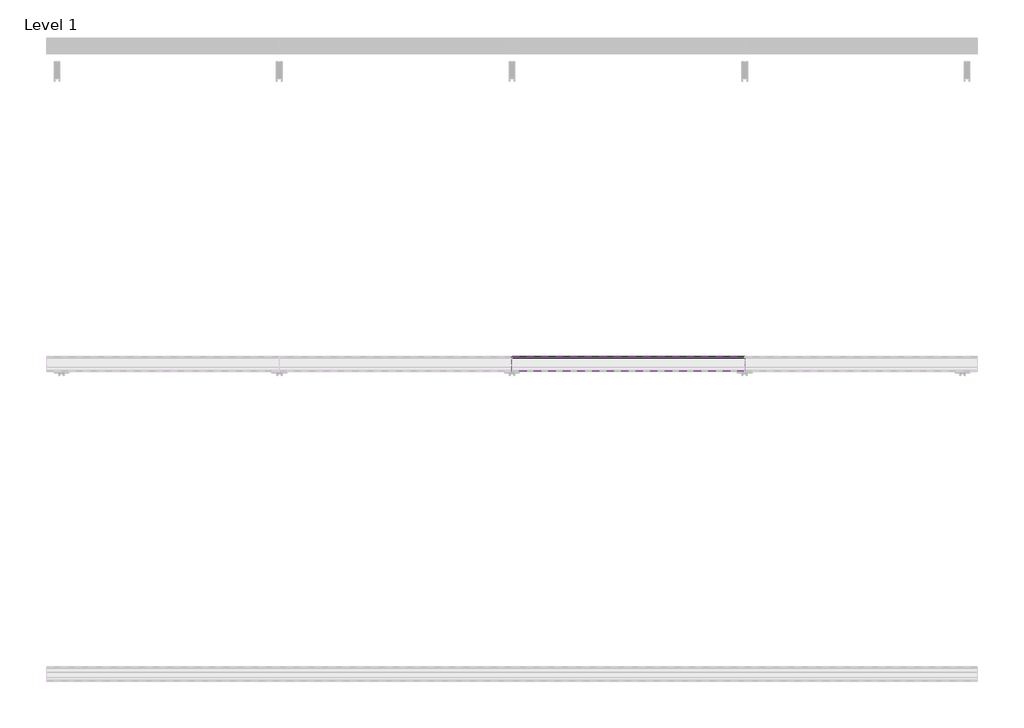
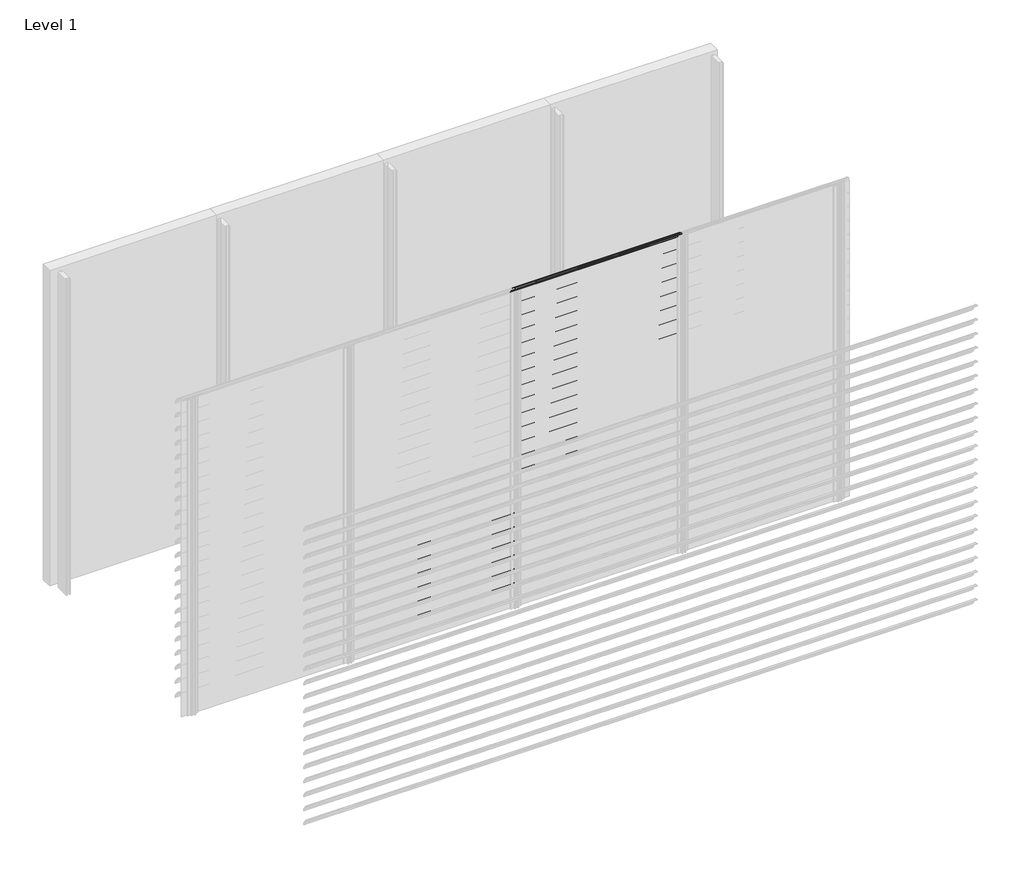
# One storey, part 6 of 57: 20 proxies.
"""IFC4 building model written with IfcOpenShell, lengths in millimetres."""

from ifc_helpers import new_model, si_unit, point, frame, frame_2d, origin, place, context, project, spatial, polyline, circle_curve, trimmed, segment, composite_curve, outline, extrude, element, save

model = new_model("IFC4")

# Units and contexts
model_context = context("Model", 3, world=origin())
ifc_project = project(units=[si_unit("LENGTHUNIT", "METRE", prefix="MILLI")], contexts=[model_context])

# Site, building, storey
site = spatial("IfcSite", under=ifc_project)
building = spatial("IfcBuilding", under=site)
storey = spatial("IfcBuildingStorey", under=building, Name="Level 1", Elevation=0.0)

# Proxies
placement = place(None, origin())
element("IfcBuildingElementProxy", 1, Name="Wall Sweeps", at=placement, inside=storey, context=model_context, shape_type="SweptSolid", body=[
    extrude(outline(composite_curve([segment(trimmed(circle_curve(frame_2d((-53993.7822526, 888.4913792)), 4.2177474), [point((-53989.6985606, 889.5462976))], [point((-53993.7822526, 892.7091266))], False, "CARTESIAN"), True, "CONTINUOUS"), segment(trimmed(circle_curve(frame_2d((-54018.7150834, 790.2536312)), 105.4456002), [point((-53993.7822526, 892.7091266))], [point((-53971.7914298, 884.6832099))], False, "CARTESIAN"), True, "CONTINUOUS"), segment(trimmed(circle_curve(frame_2d((-54061.7199745, 736.0352476)), 173.7335887), [point((-53971.7914298, 884.6832099))], [point((-53913.0720121, 825.9637922))], False, "CARTESIAN"), True, "CONTINUOUS"), segment(trimmed(circle_curve(frame_2d((-54004.9297178, 774.1860314)), 105.4456002), [point((-53913.0720121, 825.9637922))], [point((-53903.6249616, 803.4455765))], False, "CARTESIAN"), True, "CONTINUOUS"), segment(trimmed(circle_curve(frame_2d((-53907.809737, 802.3307305)), 4.3307305), [point((-53903.6249616, 803.4455765))], [point((-53909.0769196, 798.189538))], False, "CARTESIAN"), True, "CONTINUOUS"), segment(polyline([(-53909.0769196, 798.189538), (-53934.7401984, 822.9722783)]), True, "CONTINUOUS"), segment(trimmed(circle_curve(frame_2d((-53931.3879574, 825.2977626)), 4.079877), [point((-53934.7401984, 822.9722783))], [point((-53930.7310597, 829.3244091))], False, "CARTESIAN"), True, "CONTINUOUS"), segment(trimmed(circle_curve(frame_2d((-54014.6665585, 807.2544323)), 86.7885467), [point((-53930.7310597, 829.3244091))], [point((-53942.3028351, 855.1683485))], True, "CARTESIAN"), True, "CONTINUOUS"), segment(polyline([(-53942.3028351, 855.1683485), (-53940.7230099, 857.9046861)]), True, "CONTINUOUS"), segment(trimmed(circle_curve(frame_2d((-54061.7199745, 736.0352476)), 171.7335887), [point((-53940.7230099, 857.9046861))], [point((-53972.7555872, 882.9289618))], True, "CARTESIAN"), True, "CONTINUOUS"), segment(trimmed(circle_curve(frame_2d((-54018.7150834, 790.2536312)), 103.4456002), [point((-53972.7555872, 882.9289618))], [point((-53989.6985606, 889.5462976))], True, "CARTESIAN"), True, "CONTINUOUS")], self_intersect=False)), frame((1500.0, 0.0, 0.0), z_axis=(1.0, 0.0, 0.0), x_axis=(0.0, 1.0, 0.0)), (0.0, 0.0, 1.0), 1500.0),
])
element("IfcBuildingElementProxy", 2, Name="Wall Sweeps", at=placement, inside=storey, context=model_context, shape_type="SweptSolid", body=[
    extrude(outline(composite_curve([segment(trimmed(circle_curve(frame_2d((-53993.7822526, 755.4913792)), 4.2177474), [point((-53989.6985606, 756.5462976))], [point((-53993.7822526, 759.7091266))], False, "CARTESIAN"), True, "CONTINUOUS"), segment(trimmed(circle_curve(frame_2d((-54018.7150834, 657.2536312)), 105.4456002), [point((-53993.7822526, 759.7091266))], [point((-53971.7914298, 751.6832099))], False, "CARTESIAN"), True, "CONTINUOUS"), segment(trimmed(circle_curve(frame_2d((-54061.7199745, 603.0352476)), 173.7335887), [point((-53971.7914298, 751.6832099))], [point((-53913.0720121, 692.9637922))], False, "CARTESIAN"), True, "CONTINUOUS"), segment(trimmed(circle_curve(frame_2d((-54004.9297178, 641.1860314)), 105.4456002), [point((-53913.0720121, 692.9637922))], [point((-53903.6249616, 670.4455765))], False, "CARTESIAN"), True, "CONTINUOUS"), segment(trimmed(circle_curve(frame_2d((-53907.809737, 669.3307305)), 4.3307305), [point((-53903.6249616, 670.4455765))], [point((-53909.0769196, 665.189538))], False, "CARTESIAN"), True, "CONTINUOUS"), segment(polyline([(-53909.0769196, 665.189538), (-53934.7401984, 689.9722783)]), True, "CONTINUOUS"), segment(trimmed(circle_curve(frame_2d((-53931.3879574, 692.2977626)), 4.079877), [point((-53934.7401984, 689.9722783))], [point((-53930.7310597, 696.3244091))], False, "CARTESIAN"), True, "CONTINUOUS"), segment(trimmed(circle_curve(frame_2d((-54014.6665585, 674.2544323)), 86.7885467), [point((-53930.7310597, 696.3244091))], [point((-53942.3028351, 722.1683485))], True, "CARTESIAN"), True, "CONTINUOUS"), segment(polyline([(-53942.3028351, 722.1683485), (-53940.7230099, 724.9046861)]), True, "CONTINUOUS"), segment(trimmed(circle_curve(frame_2d((-54061.7199745, 603.0352476)), 171.7335887), [point((-53940.7230099, 724.9046861))], [point((-53972.7555872, 749.9289618))], True, "CARTESIAN"), True, "CONTINUOUS"), segment(trimmed(circle_curve(frame_2d((-54018.7150834, 657.2536312)), 103.4456002), [point((-53972.7555872, 749.9289618))], [point((-53989.6985606, 756.5462976))], True, "CARTESIAN"), True, "CONTINUOUS")], self_intersect=False)), frame((1500.0, 0.0, 0.0), z_axis=(1.0, 0.0, 0.0), x_axis=(0.0, 1.0, 0.0)), (0.0, 0.0, 1.0), 1500.0),
])
element("IfcBuildingElementProxy", 3, Name="Wall Sweeps", at=placement, inside=storey, context=model_context, shape_type="SweptSolid", body=[
    extrude(outline(composite_curve([segment(trimmed(circle_curve(frame_2d((-53993.7822526, 622.4913792)), 4.2177474), [point((-53989.6985606, 623.5462976))], [point((-53993.7822526, 626.7091266))], False, "CARTESIAN"), True, "CONTINUOUS"), segment(trimmed(circle_curve(frame_2d((-54018.7150834, 524.2536312)), 105.4456002), [point((-53993.7822526, 626.7091266))], [point((-53971.7914298, 618.6832099))], False, "CARTESIAN"), True, "CONTINUOUS"), segment(trimmed(circle_curve(frame_2d((-54061.7199745, 470.0352476)), 173.7335887), [point((-53971.7914298, 618.6832099))], [point((-53913.0720121, 559.9637922))], False, "CARTESIAN"), True, "CONTINUOUS"), segment(trimmed(circle_curve(frame_2d((-54004.9297178, 508.1860314)), 105.4456002), [point((-53913.0720121, 559.9637922))], [point((-53903.6249616, 537.4455765))], False, "CARTESIAN"), True, "CONTINUOUS"), segment(trimmed(circle_curve(frame_2d((-53907.809737, 536.3307305)), 4.3307305), [point((-53903.6249616, 537.4455765))], [point((-53909.0769196, 532.189538))], False, "CARTESIAN"), True, "CONTINUOUS"), segment(polyline([(-53909.0769196, 532.189538), (-53934.7401984, 556.9722783)]), True, "CONTINUOUS"), segment(trimmed(circle_curve(frame_2d((-53931.3879574, 559.2977626)), 4.079877), [point((-53934.7401984, 556.9722783))], [point((-53930.7310597, 563.3244091))], False, "CARTESIAN"), True, "CONTINUOUS"), segment(trimmed(circle_curve(frame_2d((-54014.6665585, 541.2544323)), 86.7885467), [point((-53930.7310597, 563.3244091))], [point((-53942.3028351, 589.1683485))], True, "CARTESIAN"), True, "CONTINUOUS"), segment(polyline([(-53942.3028351, 589.1683485), (-53940.7230099, 591.9046861)]), True, "CONTINUOUS"), segment(trimmed(circle_curve(frame_2d((-54061.7199745, 470.0352476)), 171.7335887), [point((-53940.7230099, 591.9046861))], [point((-53972.7555872, 616.9289618))], True, "CARTESIAN"), True, "CONTINUOUS"), segment(trimmed(circle_curve(frame_2d((-54018.7150834, 524.2536312)), 103.4456002), [point((-53972.7555872, 616.9289618))], [point((-53989.6985606, 623.5462976))], True, "CARTESIAN"), True, "CONTINUOUS")], self_intersect=False)), frame((1500.0, 0.0, 0.0), z_axis=(1.0, 0.0, 0.0), x_axis=(0.0, 1.0, 0.0)), (0.0, 0.0, 1.0), 1500.0),
])
element("IfcBuildingElementProxy", 4, Name="Wall Sweeps", at=placement, inside=storey, context=model_context, shape_type="SweptSolid", body=[
    extrude(outline(composite_curve([segment(trimmed(circle_curve(frame_2d((-53993.7822526, 489.4913792)), 4.2177474), [point((-53989.6985606, 490.5462976))], [point((-53993.7822526, 493.7091266))], False, "CARTESIAN"), True, "CONTINUOUS"), segment(trimmed(circle_curve(frame_2d((-54018.7150834, 391.2536312)), 105.4456002), [point((-53993.7822526, 493.7091266))], [point((-53971.7914298, 485.6832099))], False, "CARTESIAN"), True, "CONTINUOUS"), segment(trimmed(circle_curve(frame_2d((-54061.7199745, 337.0352476)), 173.7335887), [point((-53971.7914298, 485.6832099))], [point((-53913.0720121, 426.9637922))], False, "CARTESIAN"), True, "CONTINUOUS"), segment(trimmed(circle_curve(frame_2d((-54004.9297178, 375.1860314)), 105.4456002), [point((-53913.0720121, 426.9637922))], [point((-53903.6249616, 404.4455765))], False, "CARTESIAN"), True, "CONTINUOUS"), segment(trimmed(circle_curve(frame_2d((-53907.809737, 403.3307305)), 4.3307305), [point((-53903.6249616, 404.4455765))], [point((-53909.0769196, 399.189538))], False, "CARTESIAN"), True, "CONTINUOUS"), segment(polyline([(-53909.0769196, 399.189538), (-53934.7401984, 423.9722783)]), True, "CONTINUOUS"), segment(trimmed(circle_curve(frame_2d((-53931.3879574, 426.2977626)), 4.079877), [point((-53934.7401984, 423.9722783))], [point((-53930.7310597, 430.3244091))], False, "CARTESIAN"), True, "CONTINUOUS"), segment(trimmed(circle_curve(frame_2d((-54014.6665585, 408.2544323)), 86.7885467), [point((-53930.7310597, 430.3244091))], [point((-53942.3028351, 456.1683485))], True, "CARTESIAN"), True, "CONTINUOUS"), segment(polyline([(-53942.3028351, 456.1683485), (-53940.7230099, 458.9046861)]), True, "CONTINUOUS"), segment(trimmed(circle_curve(frame_2d((-54061.7199745, 337.0352476)), 171.7335887), [point((-53940.7230099, 458.9046861))], [point((-53972.7555872, 483.9289618))], True, "CARTESIAN"), True, "CONTINUOUS"), segment(trimmed(circle_curve(frame_2d((-54018.7150834, 391.2536312)), 103.4456002), [point((-53972.7555872, 483.9289618))], [point((-53989.6985606, 490.5462976))], True, "CARTESIAN"), True, "CONTINUOUS")], self_intersect=False)), frame((1500.0, 0.0, 0.0), z_axis=(1.0, 0.0, 0.0), x_axis=(0.0, 1.0, 0.0)), (0.0, 0.0, 1.0), 1500.0),
])
element("IfcBuildingElementProxy", 5, Name="Wall Sweeps", at=placement, inside=storey, context=model_context, shape_type="SweptSolid", body=[
    extrude(outline(composite_curve([segment(trimmed(circle_curve(frame_2d((-53993.7822526, 356.4913792)), 4.2177474), [point((-53989.6985606, 357.5462976))], [point((-53993.7822526, 360.7091266))], False, "CARTESIAN"), True, "CONTINUOUS"), segment(trimmed(circle_curve(frame_2d((-54018.7150834, 258.2536312)), 105.4456002), [point((-53993.7822526, 360.7091266))], [point((-53971.7914298, 352.6832099))], False, "CARTESIAN"), True, "CONTINUOUS"), segment(trimmed(circle_curve(frame_2d((-54061.7199745, 204.0352476)), 173.7335887), [point((-53971.7914298, 352.6832099))], [point((-53913.0720121, 293.9637922))], False, "CARTESIAN"), True, "CONTINUOUS"), segment(trimmed(circle_curve(frame_2d((-54004.9297178, 242.1860314)), 105.4456002), [point((-53913.0720121, 293.9637922))], [point((-53903.6249616, 271.4455765))], False, "CARTESIAN"), True, "CONTINUOUS"), segment(trimmed(circle_curve(frame_2d((-53907.809737, 270.3307305)), 4.3307305), [point((-53903.6249616, 271.4455765))], [point((-53909.0769196, 266.189538))], False, "CARTESIAN"), True, "CONTINUOUS"), segment(polyline([(-53909.0769196, 266.189538), (-53934.7401984, 290.9722783)]), True, "CONTINUOUS"), segment(trimmed(circle_curve(frame_2d((-53931.3879574, 293.2977626)), 4.079877), [point((-53934.7401984, 290.9722783))], [point((-53930.7310597, 297.3244091))], False, "CARTESIAN"), True, "CONTINUOUS"), segment(trimmed(circle_curve(frame_2d((-54014.6665585, 275.2544323)), 86.7885467), [point((-53930.7310597, 297.3244091))], [point((-53942.3028351, 323.1683485))], True, "CARTESIAN"), True, "CONTINUOUS"), segment(polyline([(-53942.3028351, 323.1683485), (-53940.7230099, 325.9046861)]), True, "CONTINUOUS"), segment(trimmed(circle_curve(frame_2d((-54061.7199745, 204.0352476)), 171.7335887), [point((-53940.7230099, 325.9046861))], [point((-53972.7555872, 350.9289618))], True, "CARTESIAN"), True, "CONTINUOUS"), segment(trimmed(circle_curve(frame_2d((-54018.7150834, 258.2536312)), 103.4456002), [point((-53972.7555872, 350.9289618))], [point((-53989.6985606, 357.5462976))], True, "CARTESIAN"), True, "CONTINUOUS")], self_intersect=False)), frame((1500.0, 0.0, 0.0), z_axis=(1.0, 0.0, 0.0), x_axis=(0.0, 1.0, 0.0)), (0.0, 0.0, 1.0), 1500.0),
])
element("IfcBuildingElementProxy", 6, Name="Wall Sweeps", at=placement, inside=storey, context=model_context, shape_type="SweptSolid", body=[
    extrude(outline(composite_curve([segment(trimmed(circle_curve(frame_2d((-53993.7822526, 223.4913792)), 4.2177474), [point((-53989.6985606, 224.5462976))], [point((-53993.7822526, 227.7091266))], False, "CARTESIAN"), True, "CONTINUOUS"), segment(trimmed(circle_curve(frame_2d((-54018.7150834, 125.2536312)), 105.4456002), [point((-53993.7822526, 227.7091266))], [point((-53971.7914298, 219.6832099))], False, "CARTESIAN"), True, "CONTINUOUS"), segment(trimmed(circle_curve(frame_2d((-54061.7199745, 71.0352476)), 173.7335887), [point((-53971.7914298, 219.6832099))], [point((-53913.0720121, 160.9637922))], False, "CARTESIAN"), True, "CONTINUOUS"), segment(trimmed(circle_curve(frame_2d((-54004.9297178, 109.1860314)), 105.4456002), [point((-53913.0720121, 160.9637922))], [point((-53903.6249616, 138.4455765))], False, "CARTESIAN"), True, "CONTINUOUS"), segment(trimmed(circle_curve(frame_2d((-53907.809737, 137.3307305)), 4.3307305), [point((-53903.6249616, 138.4455765))], [point((-53909.0769196, 133.189538))], False, "CARTESIAN"), True, "CONTINUOUS"), segment(polyline([(-53909.0769196, 133.189538), (-53934.7401984, 157.9722783)]), True, "CONTINUOUS"), segment(trimmed(circle_curve(frame_2d((-53931.3879574, 160.2977626)), 4.079877), [point((-53934.7401984, 157.9722783))], [point((-53930.7310597, 164.3244091))], False, "CARTESIAN"), True, "CONTINUOUS"), segment(trimmed(circle_curve(frame_2d((-54014.6665585, 142.2544323)), 86.7885467), [point((-53930.7310597, 164.3244091))], [point((-53942.3028351, 190.1683485))], True, "CARTESIAN"), True, "CONTINUOUS"), segment(polyline([(-53942.3028351, 190.1683485), (-53940.7230099, 192.9046861)]), True, "CONTINUOUS"), segment(trimmed(circle_curve(frame_2d((-54061.7199745, 71.0352476)), 171.7335887), [point((-53940.7230099, 192.9046861))], [point((-53972.7555872, 217.9289618))], True, "CARTESIAN"), True, "CONTINUOUS"), segment(trimmed(circle_curve(frame_2d((-54018.7150834, 125.2536312)), 103.4456002), [point((-53972.7555872, 217.9289618))], [point((-53989.6985606, 224.5462976))], True, "CARTESIAN"), True, "CONTINUOUS")], self_intersect=False)), frame((1500.0, 0.0, 0.0), z_axis=(1.0, 0.0, 0.0), x_axis=(0.0, 1.0, 0.0)), (0.0, 0.0, 1.0), 1500.0),
])
element("IfcBuildingElementProxy", 7, Name="Wall Sweeps", at=placement, inside=storey, context=model_context, shape_type="SweptSolid", body=[
    extrude(outline(composite_curve([segment(trimmed(circle_curve(frame_2d((-53993.7822526, 3016.4913792)), 4.2177474), [point((-53989.6985606, 3017.5462976))], [point((-53993.7822526, 3020.7091266))], False, "CARTESIAN"), True, "CONTINUOUS"), segment(trimmed(circle_curve(frame_2d((-54018.7150834, 2918.2536312)), 105.4456002), [point((-53993.7822526, 3020.7091266))], [point((-53971.7914298, 3012.6832099))], False, "CARTESIAN"), True, "CONTINUOUS"), segment(trimmed(circle_curve(frame_2d((-54061.7199745, 2864.0352476)), 173.7335887), [point((-53971.7914298, 3012.6832099))], [point((-53913.0720121, 2953.9637922))], False, "CARTESIAN"), True, "CONTINUOUS"), segment(trimmed(circle_curve(frame_2d((-54004.9297178, 2902.1860314)), 105.4456002), [point((-53913.0720121, 2953.9637922))], [point((-53903.6249616, 2931.4455765))], False, "CARTESIAN"), True, "CONTINUOUS"), segment(trimmed(circle_curve(frame_2d((-53907.809737, 2930.3307305)), 4.3307305), [point((-53903.6249616, 2931.4455765))], [point((-53909.0769196, 2926.189538))], False, "CARTESIAN"), True, "CONTINUOUS"), segment(polyline([(-53909.0769196, 2926.189538), (-53934.7401984, 2950.9722783)]), True, "CONTINUOUS"), segment(trimmed(circle_curve(frame_2d((-53931.3879574, 2953.2977626)), 4.079877), [point((-53934.7401984, 2950.9722783))], [point((-53930.7310597, 2957.3244091))], False, "CARTESIAN"), True, "CONTINUOUS"), segment(trimmed(circle_curve(frame_2d((-54014.6665585, 2935.2544323)), 86.7885467), [point((-53930.7310597, 2957.3244091))], [point((-53942.3028351, 2983.1683485))], True, "CARTESIAN"), True, "CONTINUOUS"), segment(polyline([(-53942.3028351, 2983.1683485), (-53940.7230099, 2985.9046861)]), True, "CONTINUOUS"), segment(trimmed(circle_curve(frame_2d((-54061.7199745, 2864.0352476)), 171.7335887), [point((-53940.7230099, 2985.9046861))], [point((-53972.7555872, 3010.9289618))], True, "CARTESIAN"), True, "CONTINUOUS"), segment(trimmed(circle_curve(frame_2d((-54018.7150834, 2918.2536312)), 103.4456002), [point((-53972.7555872, 3010.9289618))], [point((-53989.6985606, 3017.5462976))], True, "CARTESIAN"), True, "CONTINUOUS")], self_intersect=False)), frame((3000.0, 0.0, 0.0), z_axis=(1.0, 0.0, 0.0), x_axis=(0.0, 1.0, 0.0)), (0.0, 0.0, 1.0), 1500.0),
])
element("IfcBuildingElementProxy", 8, Name="Wall Sweeps", at=placement, inside=storey, context=model_context, shape_type="SweptSolid", body=[
    extrude(outline(composite_curve([segment(trimmed(circle_curve(frame_2d((-53993.7822526, 2883.4913792)), 4.2177474), [point((-53989.6985606, 2884.5462976))], [point((-53993.7822526, 2887.7091266))], False, "CARTESIAN"), True, "CONTINUOUS"), segment(trimmed(circle_curve(frame_2d((-54018.7150834, 2785.2536312)), 105.4456002), [point((-53993.7822526, 2887.7091266))], [point((-53971.7914298, 2879.6832099))], False, "CARTESIAN"), True, "CONTINUOUS"), segment(trimmed(circle_curve(frame_2d((-54061.7199745, 2731.0352476)), 173.7335887), [point((-53971.7914298, 2879.6832099))], [point((-53913.0720121, 2820.9637922))], False, "CARTESIAN"), True, "CONTINUOUS"), segment(trimmed(circle_curve(frame_2d((-54004.9297178, 2769.1860314)), 105.4456002), [point((-53913.0720121, 2820.9637922))], [point((-53903.6249616, 2798.4455765))], False, "CARTESIAN"), True, "CONTINUOUS"), segment(trimmed(circle_curve(frame_2d((-53907.809737, 2797.3307305)), 4.3307305), [point((-53903.6249616, 2798.4455765))], [point((-53909.0769196, 2793.189538))], False, "CARTESIAN"), True, "CONTINUOUS"), segment(polyline([(-53909.0769196, 2793.189538), (-53934.7401984, 2817.9722783)]), True, "CONTINUOUS"), segment(trimmed(circle_curve(frame_2d((-53931.3879574, 2820.2977626)), 4.079877), [point((-53934.7401984, 2817.9722783))], [point((-53930.7310597, 2824.3244091))], False, "CARTESIAN"), True, "CONTINUOUS"), segment(trimmed(circle_curve(frame_2d((-54014.6665585, 2802.2544323)), 86.7885467), [point((-53930.7310597, 2824.3244091))], [point((-53942.3028351, 2850.1683485))], True, "CARTESIAN"), True, "CONTINUOUS"), segment(polyline([(-53942.3028351, 2850.1683485), (-53940.7230099, 2852.9046861)]), True, "CONTINUOUS"), segment(trimmed(circle_curve(frame_2d((-54061.7199745, 2731.0352476)), 171.7335887), [point((-53940.7230099, 2852.9046861))], [point((-53972.7555872, 2877.9289618))], True, "CARTESIAN"), True, "CONTINUOUS"), segment(trimmed(circle_curve(frame_2d((-54018.7150834, 2785.2536312)), 103.4456002), [point((-53972.7555872, 2877.9289618))], [point((-53989.6985606, 2884.5462976))], True, "CARTESIAN"), True, "CONTINUOUS")], self_intersect=False)), frame((3000.0, 0.0, 0.0), z_axis=(1.0, 0.0, 0.0), x_axis=(0.0, 1.0, 0.0)), (0.0, 0.0, 1.0), 1500.0),
])
element("IfcBuildingElementProxy", 9, Name="Wall Sweeps", at=placement, inside=storey, context=model_context, shape_type="SweptSolid", body=[
    extrude(outline(composite_curve([segment(trimmed(circle_curve(frame_2d((-53993.7822526, 2750.4913792)), 4.2177474), [point((-53989.6985606, 2751.5462976))], [point((-53993.7822526, 2754.7091266))], False, "CARTESIAN"), True, "CONTINUOUS"), segment(trimmed(circle_curve(frame_2d((-54018.7150834, 2652.2536312)), 105.4456002), [point((-53993.7822526, 2754.7091266))], [point((-53971.7914298, 2746.6832099))], False, "CARTESIAN"), True, "CONTINUOUS"), segment(trimmed(circle_curve(frame_2d((-54061.7199745, 2598.0352476)), 173.7335887), [point((-53971.7914298, 2746.6832099))], [point((-53913.0720121, 2687.9637922))], False, "CARTESIAN"), True, "CONTINUOUS"), segment(trimmed(circle_curve(frame_2d((-54004.9297178, 2636.1860314)), 105.4456002), [point((-53913.0720121, 2687.9637922))], [point((-53903.6249616, 2665.4455765))], False, "CARTESIAN"), True, "CONTINUOUS"), segment(trimmed(circle_curve(frame_2d((-53907.809737, 2664.3307305)), 4.3307305), [point((-53903.6249616, 2665.4455765))], [point((-53909.0769196, 2660.189538))], False, "CARTESIAN"), True, "CONTINUOUS"), segment(polyline([(-53909.0769196, 2660.189538), (-53934.7401984, 2684.9722783)]), True, "CONTINUOUS"), segment(trimmed(circle_curve(frame_2d((-53931.3879574, 2687.2977626)), 4.079877), [point((-53934.7401984, 2684.9722783))], [point((-53930.7310597, 2691.3244091))], False, "CARTESIAN"), True, "CONTINUOUS"), segment(trimmed(circle_curve(frame_2d((-54014.6665585, 2669.2544323)), 86.7885467), [point((-53930.7310597, 2691.3244091))], [point((-53942.3028351, 2717.1683485))], True, "CARTESIAN"), True, "CONTINUOUS"), segment(polyline([(-53942.3028351, 2717.1683485), (-53940.7230099, 2719.9046861)]), True, "CONTINUOUS"), segment(trimmed(circle_curve(frame_2d((-54061.7199745, 2598.0352476)), 171.7335887), [point((-53940.7230099, 2719.9046861))], [point((-53972.7555872, 2744.9289618))], True, "CARTESIAN"), True, "CONTINUOUS"), segment(trimmed(circle_curve(frame_2d((-54018.7150834, 2652.2536312)), 103.4456002), [point((-53972.7555872, 2744.9289618))], [point((-53989.6985606, 2751.5462976))], True, "CARTESIAN"), True, "CONTINUOUS")], self_intersect=False)), frame((3000.0, 0.0, 0.0), z_axis=(1.0, 0.0, 0.0), x_axis=(0.0, 1.0, 0.0)), (0.0, 0.0, 1.0), 1500.0),
])
element("IfcBuildingElementProxy", 10, Name="Wall Sweeps", at=placement, inside=storey, context=model_context, shape_type="SweptSolid", body=[
    extrude(outline(composite_curve([segment(trimmed(circle_curve(frame_2d((-53993.7822526, 2617.4913792)), 4.2177474), [point((-53989.6985606, 2618.5462976))], [point((-53993.7822526, 2621.7091266))], False, "CARTESIAN"), True, "CONTINUOUS"), segment(trimmed(circle_curve(frame_2d((-54018.7150834, 2519.2536312)), 105.4456002), [point((-53993.7822526, 2621.7091266))], [point((-53971.7914298, 2613.6832099))], False, "CARTESIAN"), True, "CONTINUOUS"), segment(trimmed(circle_curve(frame_2d((-54061.7199745, 2465.0352476)), 173.7335887), [point((-53971.7914298, 2613.6832099))], [point((-53913.0720121, 2554.9637922))], False, "CARTESIAN"), True, "CONTINUOUS"), segment(trimmed(circle_curve(frame_2d((-54004.9297178, 2503.1860314)), 105.4456002), [point((-53913.0720121, 2554.9637922))], [point((-53903.6249616, 2532.4455765))], False, "CARTESIAN"), True, "CONTINUOUS"), segment(trimmed(circle_curve(frame_2d((-53907.809737, 2531.3307305)), 4.3307305), [point((-53903.6249616, 2532.4455765))], [point((-53909.0769196, 2527.189538))], False, "CARTESIAN"), True, "CONTINUOUS"), segment(polyline([(-53909.0769196, 2527.189538), (-53934.7401984, 2551.9722783)]), True, "CONTINUOUS"), segment(trimmed(circle_curve(frame_2d((-53931.3879574, 2554.2977626)), 4.079877), [point((-53934.7401984, 2551.9722783))], [point((-53930.7310597, 2558.3244091))], False, "CARTESIAN"), True, "CONTINUOUS"), segment(trimmed(circle_curve(frame_2d((-54014.6665585, 2536.2544323)), 86.7885467), [point((-53930.7310597, 2558.3244091))], [point((-53942.3028351, 2584.1683485))], True, "CARTESIAN"), True, "CONTINUOUS"), segment(polyline([(-53942.3028351, 2584.1683485), (-53940.7230099, 2586.9046861)]), True, "CONTINUOUS"), segment(trimmed(circle_curve(frame_2d((-54061.7199745, 2465.0352476)), 171.7335887), [point((-53940.7230099, 2586.9046861))], [point((-53972.7555872, 2611.9289618))], True, "CARTESIAN"), True, "CONTINUOUS"), segment(trimmed(circle_curve(frame_2d((-54018.7150834, 2519.2536312)), 103.4456002), [point((-53972.7555872, 2611.9289618))], [point((-53989.6985606, 2618.5462976))], True, "CARTESIAN"), True, "CONTINUOUS")], self_intersect=False)), frame((3000.0, 0.0, 0.0), z_axis=(1.0, 0.0, 0.0), x_axis=(0.0, 1.0, 0.0)), (0.0, 0.0, 1.0), 1500.0),
])
element("IfcBuildingElementProxy", 11, Name="Wall Sweeps", at=placement, inside=storey, context=model_context, shape_type="SweptSolid", body=[
    extrude(outline(composite_curve([segment(trimmed(circle_curve(frame_2d((-53993.7822526, 2484.4913792)), 4.2177474), [point((-53989.6985606, 2485.5462976))], [point((-53993.7822526, 2488.7091266))], False, "CARTESIAN"), True, "CONTINUOUS"), segment(trimmed(circle_curve(frame_2d((-54018.7150834, 2386.2536312)), 105.4456002), [point((-53993.7822526, 2488.7091266))], [point((-53971.7914298, 2480.6832099))], False, "CARTESIAN"), True, "CONTINUOUS"), segment(trimmed(circle_curve(frame_2d((-54061.7199745, 2332.0352476)), 173.7335887), [point((-53971.7914298, 2480.6832099))], [point((-53913.0720121, 2421.9637922))], False, "CARTESIAN"), True, "CONTINUOUS"), segment(trimmed(circle_curve(frame_2d((-54004.9297178, 2370.1860314)), 105.4456002), [point((-53913.0720121, 2421.9637922))], [point((-53903.6249616, 2399.4455765))], False, "CARTESIAN"), True, "CONTINUOUS"), segment(trimmed(circle_curve(frame_2d((-53907.809737, 2398.3307305)), 4.3307305), [point((-53903.6249616, 2399.4455765))], [point((-53909.0769196, 2394.189538))], False, "CARTESIAN"), True, "CONTINUOUS"), segment(polyline([(-53909.0769196, 2394.189538), (-53934.7401984, 2418.9722783)]), True, "CONTINUOUS"), segment(trimmed(circle_curve(frame_2d((-53931.3879574, 2421.2977626)), 4.079877), [point((-53934.7401984, 2418.9722783))], [point((-53930.7310597, 2425.3244091))], False, "CARTESIAN"), True, "CONTINUOUS"), segment(trimmed(circle_curve(frame_2d((-54014.6665585, 2403.2544323)), 86.7885467), [point((-53930.7310597, 2425.3244091))], [point((-53942.3028351, 2451.1683485))], True, "CARTESIAN"), True, "CONTINUOUS"), segment(polyline([(-53942.3028351, 2451.1683485), (-53940.7230099, 2453.9046861)]), True, "CONTINUOUS"), segment(trimmed(circle_curve(frame_2d((-54061.7199745, 2332.0352476)), 171.7335887), [point((-53940.7230099, 2453.9046861))], [point((-53972.7555872, 2478.9289618))], True, "CARTESIAN"), True, "CONTINUOUS"), segment(trimmed(circle_curve(frame_2d((-54018.7150834, 2386.2536312)), 103.4456002), [point((-53972.7555872, 2478.9289618))], [point((-53989.6985606, 2485.5462976))], True, "CARTESIAN"), True, "CONTINUOUS")], self_intersect=False)), frame((3000.0, 0.0, 0.0), z_axis=(1.0, 0.0, 0.0), x_axis=(0.0, 1.0, 0.0)), (0.0, 0.0, 1.0), 1500.0),
])
element("IfcBuildingElementProxy", 12, Name="Wall Sweeps", at=placement, inside=storey, context=model_context, shape_type="SweptSolid", body=[
    extrude(outline(composite_curve([segment(trimmed(circle_curve(frame_2d((-53993.7822526, 2351.4913792)), 4.2177474), [point((-53989.6985606, 2352.5462976))], [point((-53993.7822526, 2355.7091266))], False, "CARTESIAN"), True, "CONTINUOUS"), segment(trimmed(circle_curve(frame_2d((-54018.7150834, 2253.2536312)), 105.4456002), [point((-53993.7822526, 2355.7091266))], [point((-53971.7914298, 2347.6832099))], False, "CARTESIAN"), True, "CONTINUOUS"), segment(trimmed(circle_curve(frame_2d((-54061.7199745, 2199.0352476)), 173.7335887), [point((-53971.7914298, 2347.6832099))], [point((-53913.0720121, 2288.9637922))], False, "CARTESIAN"), True, "CONTINUOUS"), segment(trimmed(circle_curve(frame_2d((-54004.9297178, 2237.1860314)), 105.4456002), [point((-53913.0720121, 2288.9637922))], [point((-53903.6249616, 2266.4455765))], False, "CARTESIAN"), True, "CONTINUOUS"), segment(trimmed(circle_curve(frame_2d((-53907.809737, 2265.3307305)), 4.3307305), [point((-53903.6249616, 2266.4455765))], [point((-53909.0769196, 2261.189538))], False, "CARTESIAN"), True, "CONTINUOUS"), segment(polyline([(-53909.0769196, 2261.189538), (-53934.7401984, 2285.9722783)]), True, "CONTINUOUS"), segment(trimmed(circle_curve(frame_2d((-53931.3879574, 2288.2977626)), 4.079877), [point((-53934.7401984, 2285.9722783))], [point((-53930.7310597, 2292.3244091))], False, "CARTESIAN"), True, "CONTINUOUS"), segment(trimmed(circle_curve(frame_2d((-54014.6665585, 2270.2544323)), 86.7885467), [point((-53930.7310597, 2292.3244091))], [point((-53942.3028351, 2318.1683485))], True, "CARTESIAN"), True, "CONTINUOUS"), segment(polyline([(-53942.3028351, 2318.1683485), (-53940.7230099, 2320.9046861)]), True, "CONTINUOUS"), segment(trimmed(circle_curve(frame_2d((-54061.7199745, 2199.0352476)), 171.7335887), [point((-53940.7230099, 2320.9046861))], [point((-53972.7555872, 2345.9289618))], True, "CARTESIAN"), True, "CONTINUOUS"), segment(trimmed(circle_curve(frame_2d((-54018.7150834, 2253.2536312)), 103.4456002), [point((-53972.7555872, 2345.9289618))], [point((-53989.6985606, 2352.5462976))], True, "CARTESIAN"), True, "CONTINUOUS")], self_intersect=False)), frame((3000.0, 0.0, 0.0), z_axis=(1.0, 0.0, 0.0), x_axis=(0.0, 1.0, 0.0)), (0.0, 0.0, 1.0), 1500.0),
])
element("IfcBuildingElementProxy", 13, Name="Wall Sweeps", at=placement, inside=storey, context=model_context, shape_type="SweptSolid", body=[
    extrude(outline(composite_curve([segment(trimmed(circle_curve(frame_2d((-53993.7822526, 2218.4913792)), 4.2177474), [point((-53989.6985606, 2219.5462976))], [point((-53993.7822526, 2222.7091266))], False, "CARTESIAN"), True, "CONTINUOUS"), segment(trimmed(circle_curve(frame_2d((-54018.7150834, 2120.2536312)), 105.4456002), [point((-53993.7822526, 2222.7091266))], [point((-53971.7914298, 2214.6832099))], False, "CARTESIAN"), True, "CONTINUOUS"), segment(trimmed(circle_curve(frame_2d((-54061.7199745, 2066.0352476)), 173.7335887), [point((-53971.7914298, 2214.6832099))], [point((-53913.0720121, 2155.9637922))], False, "CARTESIAN"), True, "CONTINUOUS"), segment(trimmed(circle_curve(frame_2d((-54004.9297178, 2104.1860314)), 105.4456002), [point((-53913.0720121, 2155.9637922))], [point((-53903.6249616, 2133.4455765))], False, "CARTESIAN"), True, "CONTINUOUS"), segment(trimmed(circle_curve(frame_2d((-53907.809737, 2132.3307305)), 4.3307305), [point((-53903.6249616, 2133.4455765))], [point((-53909.0769196, 2128.189538))], False, "CARTESIAN"), True, "CONTINUOUS"), segment(polyline([(-53909.0769196, 2128.189538), (-53934.7401984, 2152.9722783)]), True, "CONTINUOUS"), segment(trimmed(circle_curve(frame_2d((-53931.3879574, 2155.2977626)), 4.079877), [point((-53934.7401984, 2152.9722783))], [point((-53930.7310597, 2159.3244091))], False, "CARTESIAN"), True, "CONTINUOUS"), segment(trimmed(circle_curve(frame_2d((-54014.6665585, 2137.2544323)), 86.7885467), [point((-53930.7310597, 2159.3244091))], [point((-53942.3028351, 2185.1683485))], True, "CARTESIAN"), True, "CONTINUOUS"), segment(polyline([(-53942.3028351, 2185.1683485), (-53940.7230099, 2187.9046861)]), True, "CONTINUOUS"), segment(trimmed(circle_curve(frame_2d((-54061.7199745, 2066.0352476)), 171.7335887), [point((-53940.7230099, 2187.9046861))], [point((-53972.7555872, 2212.9289618))], True, "CARTESIAN"), True, "CONTINUOUS"), segment(trimmed(circle_curve(frame_2d((-54018.7150834, 2120.2536312)), 103.4456002), [point((-53972.7555872, 2212.9289618))], [point((-53989.6985606, 2219.5462976))], True, "CARTESIAN"), True, "CONTINUOUS")], self_intersect=False)), frame((3000.0, 0.0, 0.0), z_axis=(1.0, 0.0, 0.0), x_axis=(0.0, 1.0, 0.0)), (0.0, 0.0, 1.0), 1500.0),
])
element("IfcBuildingElementProxy", 14, Name="Wall Sweeps", at=placement, inside=storey, context=model_context, shape_type="SweptSolid", body=[
    extrude(outline(composite_curve([segment(trimmed(circle_curve(frame_2d((-53993.7822526, 2085.4913792)), 4.2177474), [point((-53989.6985606, 2086.5462976))], [point((-53993.7822526, 2089.7091266))], False, "CARTESIAN"), True, "CONTINUOUS"), segment(trimmed(circle_curve(frame_2d((-54018.7150834, 1987.2536312)), 105.4456002), [point((-53993.7822526, 2089.7091266))], [point((-53971.7914298, 2081.6832099))], False, "CARTESIAN"), True, "CONTINUOUS"), segment(trimmed(circle_curve(frame_2d((-54061.7199745, 1933.0352476)), 173.7335887), [point((-53971.7914298, 2081.6832099))], [point((-53913.0720121, 2022.9637922))], False, "CARTESIAN"), True, "CONTINUOUS"), segment(trimmed(circle_curve(frame_2d((-54004.9297178, 1971.1860314)), 105.4456002), [point((-53913.0720121, 2022.9637922))], [point((-53903.6249616, 2000.4455765))], False, "CARTESIAN"), True, "CONTINUOUS"), segment(trimmed(circle_curve(frame_2d((-53907.809737, 1999.3307305)), 4.3307305), [point((-53903.6249616, 2000.4455765))], [point((-53909.0769196, 1995.189538))], False, "CARTESIAN"), True, "CONTINUOUS"), segment(polyline([(-53909.0769196, 1995.189538), (-53934.7401984, 2019.9722783)]), True, "CONTINUOUS"), segment(trimmed(circle_curve(frame_2d((-53931.3879574, 2022.2977626)), 4.079877), [point((-53934.7401984, 2019.9722783))], [point((-53930.7310597, 2026.3244091))], False, "CARTESIAN"), True, "CONTINUOUS"), segment(trimmed(circle_curve(frame_2d((-54014.6665585, 2004.2544323)), 86.7885467), [point((-53930.7310597, 2026.3244091))], [point((-53942.3028351, 2052.1683485))], True, "CARTESIAN"), True, "CONTINUOUS"), segment(polyline([(-53942.3028351, 2052.1683485), (-53940.7230099, 2054.9046861)]), True, "CONTINUOUS"), segment(trimmed(circle_curve(frame_2d((-54061.7199745, 1933.0352476)), 171.7335887), [point((-53940.7230099, 2054.9046861))], [point((-53972.7555872, 2079.9289618))], True, "CARTESIAN"), True, "CONTINUOUS"), segment(trimmed(circle_curve(frame_2d((-54018.7150834, 1987.2536312)), 103.4456002), [point((-53972.7555872, 2079.9289618))], [point((-53989.6985606, 2086.5462976))], True, "CARTESIAN"), True, "CONTINUOUS")], self_intersect=False)), frame((3000.0, 0.0, 0.0), z_axis=(1.0, 0.0, 0.0), x_axis=(0.0, 1.0, 0.0)), (0.0, 0.0, 1.0), 1500.0),
])
element("IfcBuildingElementProxy", 15, Name="Wall Sweeps", at=placement, inside=storey, context=model_context, shape_type="SweptSolid", body=[
    extrude(outline(composite_curve([segment(trimmed(circle_curve(frame_2d((-53993.7822526, 1952.4913792)), 4.2177474), [point((-53989.6985606, 1953.5462976))], [point((-53993.7822526, 1956.7091266))], False, "CARTESIAN"), True, "CONTINUOUS"), segment(trimmed(circle_curve(frame_2d((-54018.7150834, 1854.2536312)), 105.4456002), [point((-53993.7822526, 1956.7091266))], [point((-53971.7914298, 1948.6832099))], False, "CARTESIAN"), True, "CONTINUOUS"), segment(trimmed(circle_curve(frame_2d((-54061.7199745, 1800.0352476)), 173.7335887), [point((-53971.7914298, 1948.6832099))], [point((-53913.0720121, 1889.9637922))], False, "CARTESIAN"), True, "CONTINUOUS"), segment(trimmed(circle_curve(frame_2d((-54004.9297178, 1838.1860314)), 105.4456002), [point((-53913.0720121, 1889.9637922))], [point((-53903.6249616, 1867.4455765))], False, "CARTESIAN"), True, "CONTINUOUS"), segment(trimmed(circle_curve(frame_2d((-53907.809737, 1866.3307305)), 4.3307305), [point((-53903.6249616, 1867.4455765))], [point((-53909.0769196, 1862.189538))], False, "CARTESIAN"), True, "CONTINUOUS"), segment(polyline([(-53909.0769196, 1862.189538), (-53934.7401984, 1886.9722783)]), True, "CONTINUOUS"), segment(trimmed(circle_curve(frame_2d((-53931.3879574, 1889.2977626)), 4.079877), [point((-53934.7401984, 1886.9722783))], [point((-53930.7310597, 1893.3244091))], False, "CARTESIAN"), True, "CONTINUOUS"), segment(trimmed(circle_curve(frame_2d((-54014.6665585, 1871.2544323)), 86.7885467), [point((-53930.7310597, 1893.3244091))], [point((-53942.3028351, 1919.1683485))], True, "CARTESIAN"), True, "CONTINUOUS"), segment(polyline([(-53942.3028351, 1919.1683485), (-53940.7230099, 1921.9046861)]), True, "CONTINUOUS"), segment(trimmed(circle_curve(frame_2d((-54061.7199745, 1800.0352476)), 171.7335887), [point((-53940.7230099, 1921.9046861))], [point((-53972.7555872, 1946.9289618))], True, "CARTESIAN"), True, "CONTINUOUS"), segment(trimmed(circle_curve(frame_2d((-54018.7150834, 1854.2536312)), 103.4456002), [point((-53972.7555872, 1946.9289618))], [point((-53989.6985606, 1953.5462976))], True, "CARTESIAN"), True, "CONTINUOUS")], self_intersect=False)), frame((3000.0, 0.0, 0.0), z_axis=(1.0, 0.0, 0.0), x_axis=(0.0, 1.0, 0.0)), (0.0, 0.0, 1.0), 1500.0),
])
element("IfcBuildingElementProxy", 16, Name="Wall Sweeps", at=placement, inside=storey, context=model_context, shape_type="SweptSolid", body=[
    extrude(outline(composite_curve([segment(trimmed(circle_curve(frame_2d((-53993.7822526, 1819.4913792)), 4.2177474), [point((-53989.6985606, 1820.5462976))], [point((-53993.7822526, 1823.7091266))], False, "CARTESIAN"), True, "CONTINUOUS"), segment(trimmed(circle_curve(frame_2d((-54018.7150834, 1721.2536312)), 105.4456002), [point((-53993.7822526, 1823.7091266))], [point((-53971.7914298, 1815.6832099))], False, "CARTESIAN"), True, "CONTINUOUS"), segment(trimmed(circle_curve(frame_2d((-54061.7199745, 1667.0352476)), 173.7335887), [point((-53971.7914298, 1815.6832099))], [point((-53913.0720121, 1756.9637922))], False, "CARTESIAN"), True, "CONTINUOUS"), segment(trimmed(circle_curve(frame_2d((-54004.9297178, 1705.1860314)), 105.4456002), [point((-53913.0720121, 1756.9637922))], [point((-53903.6249616, 1734.4455765))], False, "CARTESIAN"), True, "CONTINUOUS"), segment(trimmed(circle_curve(frame_2d((-53907.809737, 1733.3307305)), 4.3307305), [point((-53903.6249616, 1734.4455765))], [point((-53909.0769196, 1729.189538))], False, "CARTESIAN"), True, "CONTINUOUS"), segment(polyline([(-53909.0769196, 1729.189538), (-53934.7401984, 1753.9722783)]), True, "CONTINUOUS"), segment(trimmed(circle_curve(frame_2d((-53931.3879574, 1756.2977626)), 4.079877), [point((-53934.7401984, 1753.9722783))], [point((-53930.7310597, 1760.3244091))], False, "CARTESIAN"), True, "CONTINUOUS"), segment(trimmed(circle_curve(frame_2d((-54014.6665585, 1738.2544323)), 86.7885467), [point((-53930.7310597, 1760.3244091))], [point((-53942.3028351, 1786.1683485))], True, "CARTESIAN"), True, "CONTINUOUS"), segment(polyline([(-53942.3028351, 1786.1683485), (-53940.7230099, 1788.9046861)]), True, "CONTINUOUS"), segment(trimmed(circle_curve(frame_2d((-54061.7199745, 1667.0352476)), 171.7335887), [point((-53940.7230099, 1788.9046861))], [point((-53972.7555872, 1813.9289618))], True, "CARTESIAN"), True, "CONTINUOUS"), segment(trimmed(circle_curve(frame_2d((-54018.7150834, 1721.2536312)), 103.4456002), [point((-53972.7555872, 1813.9289618))], [point((-53989.6985606, 1820.5462976))], True, "CARTESIAN"), True, "CONTINUOUS")], self_intersect=False)), frame((3000.0, 0.0, 0.0), z_axis=(1.0, 0.0, 0.0), x_axis=(0.0, 1.0, 0.0)), (0.0, 0.0, 1.0), 1500.0),
])
element("IfcBuildingElementProxy", 17, Name="Wall Sweeps", at=placement, inside=storey, context=model_context, shape_type="SweptSolid", body=[
    extrude(outline(composite_curve([segment(trimmed(circle_curve(frame_2d((-53993.7822526, 1686.4913792)), 4.2177474), [point((-53989.6985606, 1687.5462976))], [point((-53993.7822526, 1690.7091266))], False, "CARTESIAN"), True, "CONTINUOUS"), segment(trimmed(circle_curve(frame_2d((-54018.7150834, 1588.2536312)), 105.4456002), [point((-53993.7822526, 1690.7091266))], [point((-53971.7914298, 1682.6832099))], False, "CARTESIAN"), True, "CONTINUOUS"), segment(trimmed(circle_curve(frame_2d((-54061.7199745, 1534.0352476)), 173.7335887), [point((-53971.7914298, 1682.6832099))], [point((-53913.0720121, 1623.9637922))], False, "CARTESIAN"), True, "CONTINUOUS"), segment(trimmed(circle_curve(frame_2d((-54004.9297178, 1572.1860314)), 105.4456002), [point((-53913.0720121, 1623.9637922))], [point((-53903.6249616, 1601.4455765))], False, "CARTESIAN"), True, "CONTINUOUS"), segment(trimmed(circle_curve(frame_2d((-53907.809737, 1600.3307305)), 4.3307305), [point((-53903.6249616, 1601.4455765))], [point((-53909.0769196, 1596.189538))], False, "CARTESIAN"), True, "CONTINUOUS"), segment(polyline([(-53909.0769196, 1596.189538), (-53934.7401984, 1620.9722783)]), True, "CONTINUOUS"), segment(trimmed(circle_curve(frame_2d((-53931.3879574, 1623.2977626)), 4.079877), [point((-53934.7401984, 1620.9722783))], [point((-53930.7310597, 1627.3244091))], False, "CARTESIAN"), True, "CONTINUOUS"), segment(trimmed(circle_curve(frame_2d((-54014.6665585, 1605.2544323)), 86.7885467), [point((-53930.7310597, 1627.3244091))], [point((-53942.3028351, 1653.1683485))], True, "CARTESIAN"), True, "CONTINUOUS"), segment(polyline([(-53942.3028351, 1653.1683485), (-53940.7230099, 1655.9046861)]), True, "CONTINUOUS"), segment(trimmed(circle_curve(frame_2d((-54061.7199745, 1534.0352476)), 171.7335887), [point((-53940.7230099, 1655.9046861))], [point((-53972.7555872, 1680.9289618))], True, "CARTESIAN"), True, "CONTINUOUS"), segment(trimmed(circle_curve(frame_2d((-54018.7150834, 1588.2536312)), 103.4456002), [point((-53972.7555872, 1680.9289618))], [point((-53989.6985606, 1687.5462976))], True, "CARTESIAN"), True, "CONTINUOUS")], self_intersect=False)), frame((3000.0, 0.0, 0.0), z_axis=(1.0, 0.0, 0.0), x_axis=(0.0, 1.0, 0.0)), (0.0, 0.0, 1.0), 1500.0),
])
element("IfcBuildingElementProxy", 18, Name="Wall Sweeps", at=placement, inside=storey, context=model_context, shape_type="SweptSolid", body=[
    extrude(outline(composite_curve([segment(trimmed(circle_curve(frame_2d((-53993.7822526, 1553.4913792)), 4.2177474), [point((-53989.6985606, 1554.5462976))], [point((-53993.7822526, 1557.7091266))], False, "CARTESIAN"), True, "CONTINUOUS"), segment(trimmed(circle_curve(frame_2d((-54018.7150834, 1455.2536312)), 105.4456002), [point((-53993.7822526, 1557.7091266))], [point((-53971.7914298, 1549.6832099))], False, "CARTESIAN"), True, "CONTINUOUS"), segment(trimmed(circle_curve(frame_2d((-54061.7199745, 1401.0352476)), 173.7335887), [point((-53971.7914298, 1549.6832099))], [point((-53913.0720121, 1490.9637922))], False, "CARTESIAN"), True, "CONTINUOUS"), segment(trimmed(circle_curve(frame_2d((-54004.9297178, 1439.1860314)), 105.4456002), [point((-53913.0720121, 1490.9637922))], [point((-53903.6249616, 1468.4455765))], False, "CARTESIAN"), True, "CONTINUOUS"), segment(trimmed(circle_curve(frame_2d((-53907.809737, 1467.3307305)), 4.3307305), [point((-53903.6249616, 1468.4455765))], [point((-53909.0769196, 1463.189538))], False, "CARTESIAN"), True, "CONTINUOUS"), segment(polyline([(-53909.0769196, 1463.189538), (-53934.7401984, 1487.9722783)]), True, "CONTINUOUS"), segment(trimmed(circle_curve(frame_2d((-53931.3879574, 1490.2977626)), 4.079877), [point((-53934.7401984, 1487.9722783))], [point((-53930.7310597, 1494.3244091))], False, "CARTESIAN"), True, "CONTINUOUS"), segment(trimmed(circle_curve(frame_2d((-54014.6665585, 1472.2544323)), 86.7885467), [point((-53930.7310597, 1494.3244091))], [point((-53942.3028351, 1520.1683485))], True, "CARTESIAN"), True, "CONTINUOUS"), segment(polyline([(-53942.3028351, 1520.1683485), (-53940.7230099, 1522.9046861)]), True, "CONTINUOUS"), segment(trimmed(circle_curve(frame_2d((-54061.7199745, 1401.0352476)), 171.7335887), [point((-53940.7230099, 1522.9046861))], [point((-53972.7555872, 1547.9289618))], True, "CARTESIAN"), True, "CONTINUOUS"), segment(trimmed(circle_curve(frame_2d((-54018.7150834, 1455.2536312)), 103.4456002), [point((-53972.7555872, 1547.9289618))], [point((-53989.6985606, 1554.5462976))], True, "CARTESIAN"), True, "CONTINUOUS")], self_intersect=False)), frame((3000.0, 0.0, 0.0), z_axis=(1.0, 0.0, 0.0), x_axis=(0.0, 1.0, 0.0)), (0.0, 0.0, 1.0), 1500.0),
])
element("IfcBuildingElementProxy", 19, Name="Wall Sweeps", at=placement, inside=storey, context=model_context, shape_type="SweptSolid", body=[
    extrude(outline(composite_curve([segment(trimmed(circle_curve(frame_2d((-53993.7822526, 1420.4913792)), 4.2177474), [point((-53989.6985606, 1421.5462976))], [point((-53993.7822526, 1424.7091266))], False, "CARTESIAN"), True, "CONTINUOUS"), segment(trimmed(circle_curve(frame_2d((-54018.7150834, 1322.2536312)), 105.4456002), [point((-53993.7822526, 1424.7091266))], [point((-53971.7914298, 1416.6832099))], False, "CARTESIAN"), True, "CONTINUOUS"), segment(trimmed(circle_curve(frame_2d((-54061.7199745, 1268.0352476)), 173.7335887), [point((-53971.7914298, 1416.6832099))], [point((-53913.0720121, 1357.9637922))], False, "CARTESIAN"), True, "CONTINUOUS"), segment(trimmed(circle_curve(frame_2d((-54004.9297178, 1306.1860314)), 105.4456002), [point((-53913.0720121, 1357.9637922))], [point((-53903.6249616, 1335.4455765))], False, "CARTESIAN"), True, "CONTINUOUS"), segment(trimmed(circle_curve(frame_2d((-53907.809737, 1334.3307305)), 4.3307305), [point((-53903.6249616, 1335.4455765))], [point((-53909.0769196, 1330.189538))], False, "CARTESIAN"), True, "CONTINUOUS"), segment(polyline([(-53909.0769196, 1330.189538), (-53934.7401984, 1354.9722783)]), True, "CONTINUOUS"), segment(trimmed(circle_curve(frame_2d((-53931.3879574, 1357.2977626)), 4.079877), [point((-53934.7401984, 1354.9722783))], [point((-53930.7310597, 1361.3244091))], False, "CARTESIAN"), True, "CONTINUOUS"), segment(trimmed(circle_curve(frame_2d((-54014.6665585, 1339.2544323)), 86.7885467), [point((-53930.7310597, 1361.3244091))], [point((-53942.3028351, 1387.1683485))], True, "CARTESIAN"), True, "CONTINUOUS"), segment(polyline([(-53942.3028351, 1387.1683485), (-53940.7230099, 1389.9046861)]), True, "CONTINUOUS"), segment(trimmed(circle_curve(frame_2d((-54061.7199745, 1268.0352476)), 171.7335887), [point((-53940.7230099, 1389.9046861))], [point((-53972.7555872, 1414.9289618))], True, "CARTESIAN"), True, "CONTINUOUS"), segment(trimmed(circle_curve(frame_2d((-54018.7150834, 1322.2536312)), 103.4456002), [point((-53972.7555872, 1414.9289618))], [point((-53989.6985606, 1421.5462976))], True, "CARTESIAN"), True, "CONTINUOUS")], self_intersect=False)), frame((3000.0, 0.0, 0.0), z_axis=(1.0, 0.0, 0.0), x_axis=(0.0, 1.0, 0.0)), (0.0, 0.0, 1.0), 1500.0),
])
element("IfcBuildingElementProxy", 20, Name="Wall Sweeps", at=placement, inside=storey, context=model_context, shape_type="SweptSolid", body=[
    extrude(outline(composite_curve([segment(trimmed(circle_curve(frame_2d((-53993.7822526, 1287.4913792)), 4.2177474), [point((-53989.6985606, 1288.5462976))], [point((-53993.7822526, 1291.7091266))], False, "CARTESIAN"), True, "CONTINUOUS"), segment(trimmed(circle_curve(frame_2d((-54018.7150834, 1189.2536312)), 105.4456002), [point((-53993.7822526, 1291.7091266))], [point((-53971.7914298, 1283.6832099))], False, "CARTESIAN"), True, "CONTINUOUS"), segment(trimmed(circle_curve(frame_2d((-54061.7199745, 1135.0352476)), 173.7335887), [point((-53971.7914298, 1283.6832099))], [point((-53913.0720121, 1224.9637922))], False, "CARTESIAN"), True, "CONTINUOUS"), segment(trimmed(circle_curve(frame_2d((-54004.9297178, 1173.1860314)), 105.4456002), [point((-53913.0720121, 1224.9637922))], [point((-53903.6249616, 1202.4455765))], False, "CARTESIAN"), True, "CONTINUOUS"), segment(trimmed(circle_curve(frame_2d((-53907.809737, 1201.3307305)), 4.3307305), [point((-53903.6249616, 1202.4455765))], [point((-53909.0769196, 1197.189538))], False, "CARTESIAN"), True, "CONTINUOUS"), segment(polyline([(-53909.0769196, 1197.189538), (-53934.7401984, 1221.9722783)]), True, "CONTINUOUS"), segment(trimmed(circle_curve(frame_2d((-53931.3879574, 1224.2977626)), 4.079877), [point((-53934.7401984, 1221.9722783))], [point((-53930.7310597, 1228.3244091))], False, "CARTESIAN"), True, "CONTINUOUS"), segment(trimmed(circle_curve(frame_2d((-54014.6665585, 1206.2544323)), 86.7885467), [point((-53930.7310597, 1228.3244091))], [point((-53942.3028351, 1254.1683485))], True, "CARTESIAN"), True, "CONTINUOUS"), segment(polyline([(-53942.3028351, 1254.1683485), (-53940.7230099, 1256.9046861)]), True, "CONTINUOUS"), segment(trimmed(circle_curve(frame_2d((-54061.7199745, 1135.0352476)), 171.7335887), [point((-53940.7230099, 1256.9046861))], [point((-53972.7555872, 1281.9289618))], True, "CARTESIAN"), True, "CONTINUOUS"), segment(trimmed(circle_curve(frame_2d((-54018.7150834, 1189.2536312)), 103.4456002), [point((-53972.7555872, 1281.9289618))], [point((-53989.6985606, 1288.5462976))], True, "CARTESIAN"), True, "CONTINUOUS")], self_intersect=False)), frame((3000.0, 0.0, 0.0), z_axis=(1.0, 0.0, 0.0), x_axis=(0.0, 1.0, 0.0)), (0.0, 0.0, 1.0), 1500.0),
])

save(model, "model.ifc")
